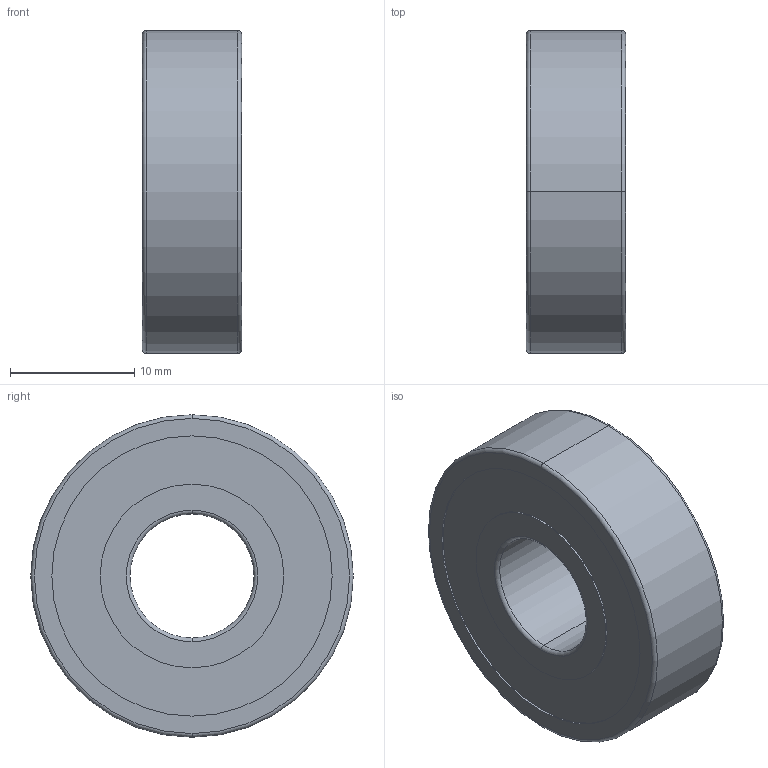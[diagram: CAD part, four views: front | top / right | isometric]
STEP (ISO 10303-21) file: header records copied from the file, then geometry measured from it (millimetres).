
FILE_DESCRIPTION (( 'STEP AP214' ), '1' );
FILE_NAME ('4.0032 Laakeri 6000 ZZ LBS.STEP', '2025-09-23T09:19:32', ( '' ), ( '' ), 'SwSTEP 2.0', 'SolidWorks 2025', '' );
FILE_SCHEMA (( 'AUTOMOTIVE_DESIGN' ));
Length unit declared in the file: millimetre
Products named in the file (1): 4.0032 Laakeri 6000 ZZ LBS
Bounding box: 8 x 26 x 26 mm (x, y, z)
Volume: 3546 mm3; surface area: 1815.7 mm2
Topology: 1 solids, 1 shells, 26 faces, 52 edges, 32 vertices
Faces by surface type: cylinder 12, torus 8, plane 6
Entity records: 719 total; most frequent: DIRECTION 146, CARTESIAN_POINT 111, ORIENTED_EDGE 104, AXIS2_PLACEMENT_3D 67, EDGE_CURVE 52, CIRCLE 40, VERTEX_POINT 32, EDGE_LOOP 32
